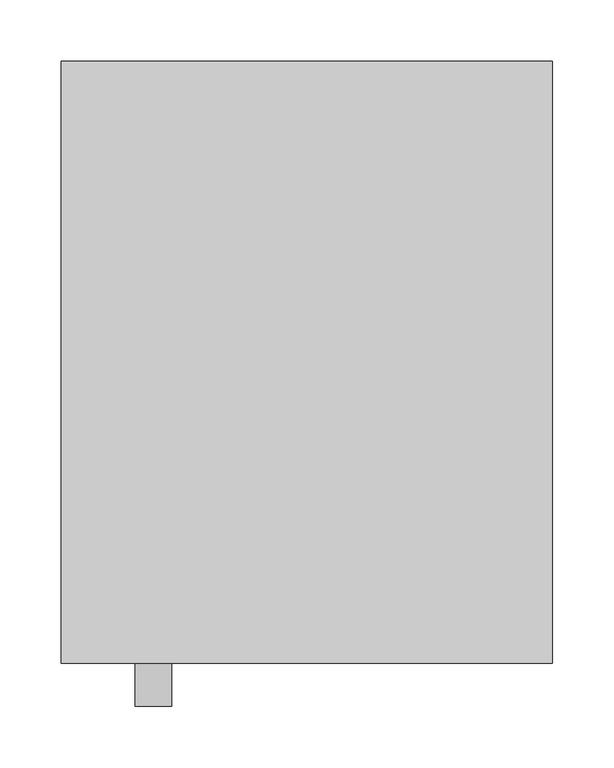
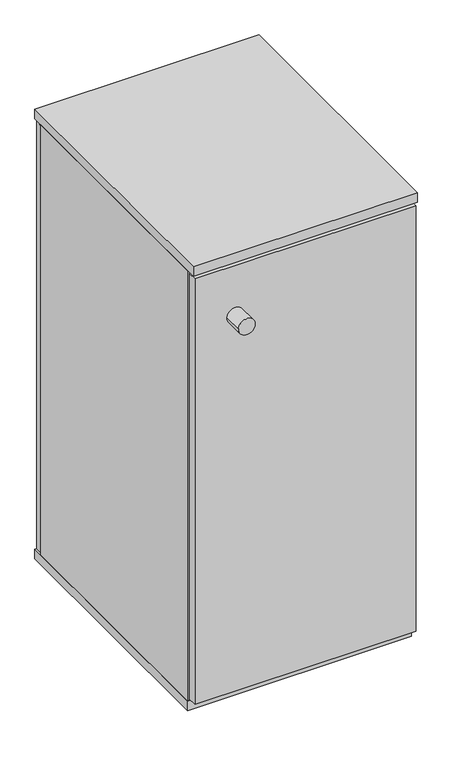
"""IFC4 building model written with IfcOpenShell, lengths in millimetres: furniture geometry, Grid Lockers - 1 Door Complimentary : GRID SINGLE DOOR CABINET 400mm(w) x 490mm(d) x 858mm(h)."""

import ifcopenshell
import ifcopenshell.guid

model = None  # the IFC model being written
_history = None  # IfcOwnerHistory: only IFC2X3 demands one
_inside = {}  # id of a spatial element -> (the spatial element, [elements in it])
_under = {}  # id of a project, library or spatial element -> (it, [spatial elements below it])
_declared = {}  # id of a project -> (the project, [libraries it declares])
_typed = {}  # id of a type object -> (the type object, [elements of that type])
_made_of = {}  # id of a material, layer set ... -> (it, [elements and type objects made of it])


def new_model(schema):
    """Start an empty IFC model of exactly this schema.

    Asked for "IFC4X3", IfcOpenShell would pick the latest addendum, in which some entities
    have other attributes; the version numbers below select the first issue.
    IFC2X3 requires an IfcOwnerHistory on every rooted entity: one is made here for all.
    """
    global model, _history
    if schema == "IFC4X3":
        model = ifcopenshell.file(schema_version=(4, 3, 0, 0))
    else:
        model = ifcopenshell.file(schema=schema)
    _inside.clear()
    _under.clear()
    _declared.clear()
    _typed.clear()
    _made_of.clear()
    _history = None
    if model.schema == "IFC2X3":
        org = make("IfcOrganization", Name="unknown")
        user = make(
            "IfcPersonAndOrganization",
            ThePerson=make("IfcPerson", FamilyName="unknown"),
            TheOrganization=org,
        )
        app = make(
            "IfcApplication",
            ApplicationDeveloper=org,
            Version="unknown",
            ApplicationFullName="unknown",
            ApplicationIdentifier="unknown",
        )
        _history = make(
            "IfcOwnerHistory",
            OwningUser=user,
            OwningApplication=app,
            ChangeAction="ADDED",
            CreationDate=0,
        )
    return model


def make(cls, **values):
    """One entity of the class cls with the attributes given. An attribute that is None is left unset."""
    return model.create_entity(
        cls, **{name: value for name, value in values.items() if value is not None}
    )


def rooted(cls, **values):
    """An entity with a GlobalId (a new one), such as an element, a storey or a relation."""
    return make(cls, GlobalId=ifcopenshell.guid.new(), OwnerHistory=_history, **values)


def si_unit(unit_type, name, prefix=None):
    """IfcSIUnit, for example si_unit("LENGTHUNIT", "METRE", prefix="MILLI")."""
    return make("IfcSIUnit", UnitType=unit_type, Prefix=prefix, Name=name)


def assignment(units):
    """IfcUnitAssignment: the units of a project."""
    return None if units is None else make("IfcUnitAssignment", Units=units)


def point(xyz):
    """IfcCartesianPoint."""
    return None if xyz is None else make("IfcCartesianPoint", Coordinates=xyz)


def direction(xyz):
    """IfcDirection."""
    return None if xyz is None else make("IfcDirection", DirectionRatios=xyz)


def frame(location, z_axis=None, x_axis=None):
    """IfcAxis2Placement3D, a coordinate frame: its origin and axes. An axis left out is left unset."""
    return make(
        "IfcAxis2Placement3D",
        Location=point(location),
        Axis=direction(z_axis),
        RefDirection=direction(x_axis),
    )


def frame_2d(location, x_axis=None):
    """IfcAxis2Placement2D, a coordinate frame in the plane: its origin and x axis."""
    return make(
        "IfcAxis2Placement2D", Location=point(location), RefDirection=direction(x_axis)
    )


def origin():
    """The frame at (0, 0, 0) with its axes left unset."""
    return frame((0.0, 0.0, 0.0))


def origin_with_axes():
    """The frame at (0, 0, 0) with the z axis (0, 0, 1) and the x axis (1, 0, 0) written out."""
    return frame((0.0, 0.0, 0.0), z_axis=(0.0, 0.0, 1.0), x_axis=(1.0, 0.0, 0.0))


def place(relative_to, where):
    """IfcLocalPlacement: puts the frame where relative to a parent placement (None: the world)."""
    return make(
        "IfcLocalPlacement", PlacementRelTo=relative_to, RelativePlacement=where
    )


def context(
    kind, dimensions, precision=None, world=None, true_north=None, identifier=None
):
    """IfcGeometricRepresentationContext, for example the 3D "Model" context."""
    return make(
        "IfcGeometricRepresentationContext",
        ContextIdentifier=identifier,
        ContextType=kind,
        CoordinateSpaceDimension=dimensions,
        Precision=precision,
        WorldCoordinateSystem=world,
        TrueNorth=true_north,
    )


def project(units=None, contexts=None):
    """IfcProject with its units and contexts."""
    return rooted(
        "IfcProject",
        Name="project",
        RepresentationContexts=contexts,
        UnitsInContext=assignment(units),
    )


def spatial(cls, under=None, at=None, **own):
    """A site, building, storey or space (cls), placed at a placement, below another one or the project."""
    s = rooted(cls, ObjectPlacement=at, **own)
    if under is not None:
        _under.setdefault(under.id(), (under, []))[1].append(s)
    return s


def polyline(points):
    """IfcPolyline through the points."""
    return make("IfcPolyline", Points=[point(p) for p in points])


def circle_curve(where, radius):
    """IfcCircle in the frame where."""
    return make("IfcCircle", Position=where, Radius=radius)


def trimmed(basis, trim1, trim2, sense, master):
    """IfcTrimmedCurve: the piece of a basis curve between two trims."""
    return make(
        "IfcTrimmedCurve",
        BasisCurve=basis,
        Trim1=trim1,
        Trim2=trim2,
        SenseAgreement=sense,
        MasterRepresentation=master,
    )


def segment(curve, same_sense, transition):
    """IfcCompositeCurveSegment."""
    return make(
        "IfcCompositeCurveSegment",
        Transition=transition,
        SameSense=same_sense,
        ParentCurve=curve,
    )


def composite_curve(segments, self_intersect=None):
    """IfcCompositeCurve: segments joined end to end."""
    return make("IfcCompositeCurve", Segments=segments, SelfIntersect=self_intersect)


def outline(outer, holes=None, kind="AREA"):
    """IfcArbitraryClosedProfileDef: a profile drawn as a closed curve; with holes, ...WithVoids."""
    if holes is None:
        return make("IfcArbitraryClosedProfileDef", ProfileType=kind, OuterCurve=outer)
    return make(
        "IfcArbitraryProfileDefWithVoids",
        ProfileType=kind,
        OuterCurve=outer,
        InnerCurves=holes,
    )


def extrude(swept, where, along, depth):
    """IfcExtrudedAreaSolid: the profile swept, set in the frame where, extruded along a direction by depth."""
    return make(
        "IfcExtrudedAreaSolid",
        SweptArea=swept,
        Position=where,
        ExtrudedDirection=direction(along),
        Depth=depth,
    )


def shape(context_of_items, identifier, shape_type, items):
    """IfcShapeRepresentation: the items that make up one representation, for example the "Body"."""
    return make(
        "IfcShapeRepresentation",
        ContextOfItems=context_of_items,
        RepresentationIdentifier=identifier,
        RepresentationType=shape_type,
        Items=items,
    )


def source(mapping_origin, context_of_items, identifier, shape_type, items):
    """IfcRepresentationMap: a shape defined once, which mapped items show again and again."""
    return make(
        "IfcRepresentationMap",
        MappingOrigin=mapping_origin,
        MappedRepresentation=shape(context_of_items, identifier, shape_type, items),
    )


def transform(
    local_origin,
    x_axis=None,
    y_axis=None,
    z_axis=None,
    scale=None,
    scale2=None,
    scale3=None,
    uniform=True,
):
    """IfcCartesianTransformationOperator3D, or its non-uniform kind. x_axis, y_axis, z_axis: its Axis1, 2, 3."""
    if uniform:
        return make(
            "IfcCartesianTransformationOperator3D",
            Axis1=direction(x_axis),
            Axis2=direction(y_axis),
            LocalOrigin=point(local_origin),
            Scale=scale,
            Axis3=direction(z_axis),
        )
    return make(
        "IfcCartesianTransformationOperator3DnonUniform",
        Axis1=direction(x_axis),
        Axis2=direction(y_axis),
        LocalOrigin=point(local_origin),
        Scale=scale,
        Axis3=direction(z_axis),
        Scale2=scale2,
        Scale3=scale3,
    )


def mapped(mapping_source, mapping_target):
    """IfcMappedItem: shows the shape of a source again, moved by a transform."""
    return make(
        "IfcMappedItem", MappingSource=mapping_source, MappingTarget=mapping_target
    )


def made_of(thing, what):
    """Note that an element or type object is made of a material, layer set ...; save() writes the relation."""
    if what is not None:
        _made_of.setdefault(what.id(), (what, []))[1].append(thing)
    return thing


def element(
    cls,
    number,
    at=None,
    inside=None,
    cuts=None,
    type_object=None,
    material=None,
    context=None,
    identifier="Body",
    shape_type=None,
    held_by="IfcProductDefinitionShape",
    body=None,
    shapes=None,
    **own,
):
    """One element of the class cls, such as IfcWall. Its Tag is "e" and its number.

    at: its placement. inside: the storey or other place that contains it. cuts: it is an
    opening in that element (IfcRelVoidsElement). A single representation is given by context,
    identifier, shape_type and body (its items); several are given by shapes. held_by: the class
    of the entity that holds the representations. save() writes the other relations.
    """
    e = rooted(cls, Tag="e%d" % number, ObjectPlacement=at, **own)
    if body is not None:
        shapes = [shape(context, identifier, shape_type, body)]
    if shapes is not None:
        e.Representation = make(held_by, Representations=shapes)
    if inside is not None:
        _inside.setdefault(inside.id(), (inside, []))[1].append(e)
    if cuts is not None:
        rooted(
            "IfcRelVoidsElement", RelatingBuildingElement=cuts, RelatedOpeningElement=e
        )
    if type_object is not None:
        _typed.setdefault(type_object.id(), (type_object, []))[1].append(e)
    return made_of(e, material)


def aggregate(whole, parts):
    """IfcRelAggregates: a whole, such as a stair, and the parts it consists of."""
    return rooted("IfcRelAggregates", RelatingObject=whole, RelatedObjects=parts)


def save(model, path):
    """Write the relations noted so far, then the file.

    IfcRelAggregates (storeys below a building ...), IfcRelContainedInSpatialStructure (elements
    in a storey), IfcRelDefinesByType, IfcRelAssociatesMaterial and IfcRelDeclares: one each for
    every whole, place, type object, material and project.
    """
    for whole, parts in _under.values():
        aggregate(whole, parts)
    for where, things in _inside.values():
        rooted(
            "IfcRelContainedInSpatialStructure",
            RelatedElements=things,
            RelatingStructure=where,
        )
    for kind, things in _typed.values():
        rooted("IfcRelDefinesByType", RelatedObjects=things, RelatingType=kind)
    for what, things in _made_of.values():
        rooted("IfcRelAssociatesMaterial", RelatedObjects=things, RelatingMaterial=what)
    for by, libraries in _declared.values():
        rooted("IfcRelDeclares", RelatingContext=by, RelatedDefinitions=libraries)
    model.write(path)


def furniture_baef7934(model_context):
    return source(origin(), model_context, "Body", "SweptSolid", [
        extrude(outline(composite_curve([segment(trimmed(circle_curve(frame_2d((350.0, -50.0)), 15.0), [point((335.0, -50.0))], [point((365.0, -50.0))], False, "CARTESIAN"), True, "CONTINUOUS"), segment(trimmed(circle_curve(frame_2d((350.0, -50.0)), 15.0), [point((365.0, -50.0))], [point((335.0, -50.0))], False, "CARTESIAN"), True, "CONTINUOUS")], self_intersect=False)), origin_with_axes(), (0.0, 0.0, 1.0), 10.0),
        extrude(outline(composite_curve([segment(trimmed(circle_curve(frame_2d((50.0, -50.0)), 15.0), [point((35.0, -50.0))], [point((65.0, -50.0))], False, "CARTESIAN"), True, "CONTINUOUS"), segment(trimmed(circle_curve(frame_2d((50.0, -50.0)), 15.0), [point((65.0, -50.0))], [point((35.0, -50.0))], False, "CARTESIAN"), True, "CONTINUOUS")], self_intersect=False)), origin_with_axes(), (0.0, 0.0, 1.0), 10.0),
        extrude(outline(composite_curve([segment(trimmed(circle_curve(frame_2d((50.0, -440.0)), 15.0), [point((35.0, -440.0))], [point((65.0, -440.0))], False, "CARTESIAN"), True, "CONTINUOUS"), segment(trimmed(circle_curve(frame_2d((50.0, -440.0)), 15.0), [point((65.0, -440.0))], [point((35.0, -440.0))], False, "CARTESIAN"), True, "CONTINUOUS")], self_intersect=False)), origin_with_axes(), (0.0, 0.0, 1.0), 10.0),
        extrude(outline(composite_curve([segment(trimmed(circle_curve(frame_2d((350.0, -440.0)), 15.0), [point((335.0, -440.0))], [point((365.0, -440.0))], False, "CARTESIAN"), True, "CONTINUOUS"), segment(trimmed(circle_curve(frame_2d((350.0, -440.0)), 15.0), [point((365.0, -440.0))], [point((335.0, -440.0))], False, "CARTESIAN"), True, "CONTINUOUS")], self_intersect=False)), origin_with_axes(), (0.0, 0.0, 1.0), 10.0),
        extrude(outline(polyline([(400.0, -472.0), (0.0, -472.0), (0.0, 0.0), (400.0, 0.0), (400.0, -472.0)])), frame((0.0, 0.0, 10.0), z_axis=(0.0, 0.0, 1.0), x_axis=(1.0, 0.0, 0.0)), (0.0, 0.0, 1.0), 18.0),
        extrude(outline(polyline([(400.0, -490.0), (0.0, -490.0), (0.0, 0.0), (400.0, 0.0), (400.0, -490.0)])), frame((0.0, 0.0, 840.0), z_axis=(0.0, 0.0, 1.0), x_axis=(1.0, 0.0, 0.0)), (0.0, 0.0, 1.0), 18.0),
        extrude(outline(composite_curve([segment(trimmed(circle_curve(frame_2d((740.0, 75.0)), 15.0), [point((740.0, 60.0))], [point((740.0, 90.0))], False, "CARTESIAN"), True, "CONTINUOUS"), segment(trimmed(circle_curve(frame_2d((740.0, 75.0)), 15.0), [point((740.0, 90.0))], [point((740.0, 60.0))], False, "CARTESIAN"), True, "CONTINUOUS")], self_intersect=False)), frame((0.0, -525.0, 0.0), z_axis=(0.0, 1.0, 0.0), x_axis=(0.0, 0.0, 1.0)), (0.0, 0.0, 1.0), 35.0),
        extrude(outline(polyline([(840.0, 400.0), (840.0, 0.0), (28.0, 0.0), (28.0, 3.0), (815.0, 3.0), (815.0, 397.0), (28.0, 397.0), (28.0, 400.0), (840.0, 400.0)])), frame((0.0, -472.0, 0.0), z_axis=(0.0, 1.0, 0.0), x_axis=(0.0, 0.0, 1.0)), (0.0, 0.0, 1.0), 454.0),
        extrude(outline(polyline([(397.0, -490.0), (3.0, -490.0), (3.0, -472.0), (397.0, -472.0), (397.0, -490.0)])), frame((0.0, 0.0, 32.0), z_axis=(0.0, 0.0, 1.0), x_axis=(1.0, 0.0, 0.0)), (0.0, 0.0, 1.0), 802.0),
        extrude(outline(polyline([(397.0, 0.0), (397.0, -18.0), (3.0, -18.0), (3.0, 0.0), (397.0, 0.0)])), frame((0.0, 0.0, 18.0), z_axis=(0.0, 0.0, 1.0), x_axis=(1.0, 0.0, 0.0)), (0.0, 0.0, 1.0), 816.0),
    ])


if __name__ == "__main__":
    model = new_model("IFC4")
    model_context = context("Model", 3, world=origin())
    ifc_project = project(units=[si_unit("LENGTHUNIT", "METRE", prefix="MILLI")], contexts=[model_context])
    site = spatial("IfcSite", under=ifc_project)
    building = spatial("IfcBuilding", under=site)
    placement = place(None, origin())
    furniture_shape = furniture_baef7934(model_context)
    element("IfcFurniture", 1, ObjectType="Grid Lockers - 1 Door Complimentary : GRID SINGLE DOOR CABINET 400mm(w) x 490mm(d) x 858mm(h)", at=placement, inside=building, context=model_context, shape_type="MappedRepresentation", body=[
        mapped(furniture_shape, transform((0.0, 0.0, 0.0), x_axis=(1.0, 0.0, 0.0), y_axis=(0.0, 1.0, 0.0), z_axis=(0.0, 0.0, 1.0))),
    ])
    save(model, "model.ifc")
